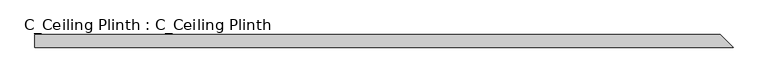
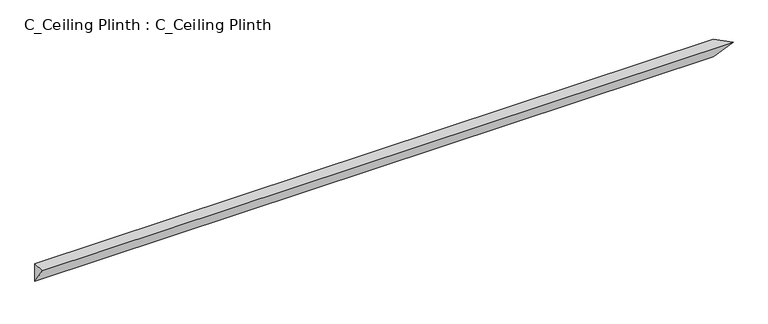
"""IFC4 building model written with IfcOpenShell, lengths in millimetres: proxy geometry, C_Ceiling Plinth : C_Ceiling Plinth."""

from ifc_helpers import new_model, si_unit, origin, place, context, project, spatial, faceted_brep, source, transform, mapped, element, save


def c_ceiling_plinth_c_ceiling_plinth_07490a19(model_context):
    return source(origin(), model_context, "Body", "Brep", [
        faceted_brep([(1377.9275955, 0.0, 0.0), (1377.9275955, 0.0, -38.1), (0.0, 0.0, -38.1), (0.0, 0.0, 0.0), (1403.3275955, -25.4, 0.0), (0.0, -25.4, 0.0)], [[[0, 1, 2, 3]], [[4, 0, 3, 5]], [[1, 4, 5, 2]], [[1, 0, 4]], [[3, 2, 5]]]),
    ])


if __name__ == "__main__":
    model = new_model("IFC4")
    model_context = context("Model", 3, world=origin())
    ifc_project = project(units=[si_unit("LENGTHUNIT", "METRE", prefix="MILLI")], contexts=[model_context])
    site = spatial("IfcSite", under=ifc_project)
    building = spatial("IfcBuilding", under=site)
    placement = place(None, origin())
    c_ceiling_plinth_c_ceiling_plinth_shape = c_ceiling_plinth_c_ceiling_plinth_07490a19(model_context)
    element("IfcBuildingElementProxy", 1, Name="C_Ceiling Plinth : C_Ceiling Plinth", ObjectType="C_Ceiling Plinth : C_Ceiling Plinth", at=placement, inside=building, context=model_context, shape_type="MappedRepresentation", body=[
        mapped(c_ceiling_plinth_c_ceiling_plinth_shape, transform((0.0, 0.0, 0.0), x_axis=(1.0, 0.0, 0.0), y_axis=(0.0, 1.0, 0.0), z_axis=(0.0, 0.0, 1.0))),
    ])
    save(model, "model.ifc")
